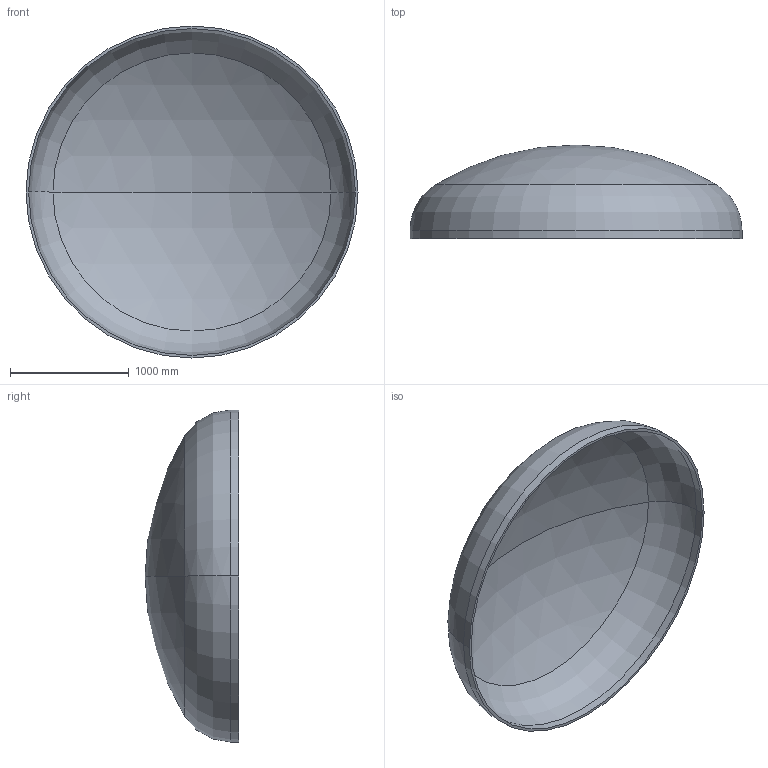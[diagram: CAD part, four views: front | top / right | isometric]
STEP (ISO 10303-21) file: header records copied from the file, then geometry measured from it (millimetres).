
FILE_DESCRIPTION (( 'STEP AP203' ), '1' );
FILE_NAME ('DIN 28013 Korbbogenform_-_Boden DIN 28013 - 2800 x 70 - I - s=22.step', '2016-07-01T16:47:56', ( '' ), ( '' ), 'SwSTEP 2.0', 'SolidWorks 2013', '' );
FILE_SCHEMA (( 'CONFIG_CONTROL_DESIGN' ));
Length unit declared in the file: millimetre
Products named in the file (1): DIN 28013 Korbbogenform_-_Boden DIN 28013 - 2800 x 70 - I - s=22
Bounding box: 2800 x 790.12 x 2800 mm (x, y, z)
Volume: 199018877.8 mm3; surface area: 18285633.7 mm2
Topology: 1 solids, 1 shells, 13 faces, 24 edges, 14 vertices
Faces by surface type: torus 4, cylinder 4, sphere 4, plane 1
Entity records: 407 total; most frequent: DIRECTION 72, CARTESIAN_POINT 52, ORIENTED_EDGE 48, AXIS2_PLACEMENT_3D 34, EDGE_CURVE 24, CIRCLE 20, EDGE_LOOP 14, VERTEX_POINT 14
